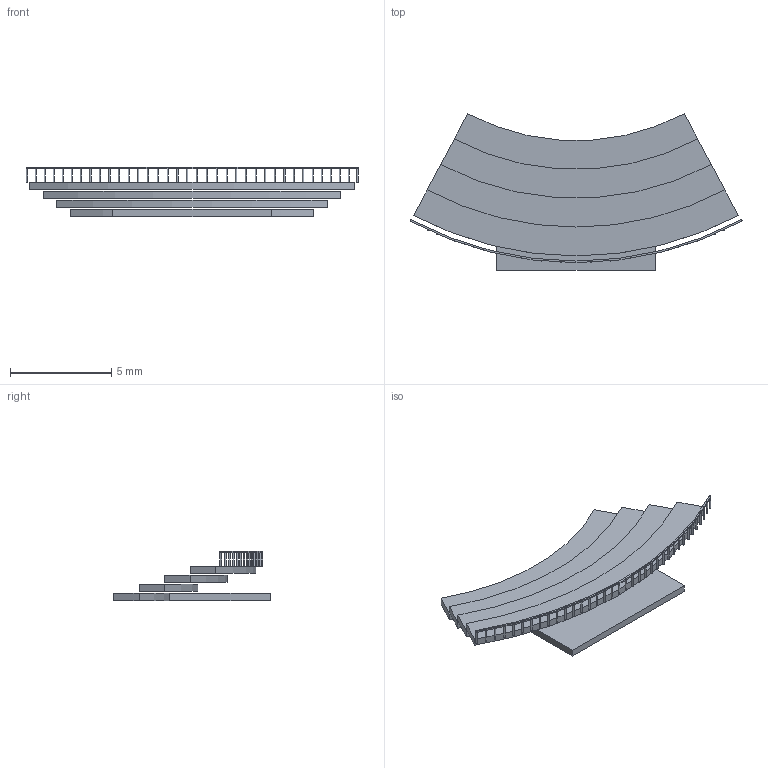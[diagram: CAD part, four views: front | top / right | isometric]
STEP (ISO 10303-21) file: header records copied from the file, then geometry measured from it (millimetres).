
FILE_DESCRIPTION(('ORION SD-AMF-01 Universalnyy amfiteatr «Zelenyy forum» | OOO ORION | zavod-orion.ru | sales@zavod-orion.ru | tel +7 __________'),'2;1');
FILE_NAME('AutoCAD Shape Model','2026-08-08T22:50:52',('Author'),( 'AutoCAD'),'AutoCAD STEP processor 7.9','AutoCAD 7.9' ,'Unknown');
FILE_SCHEMA(('AUTOMOTIVE_DESIGN { 1 0 10303 214 1 1 1 1 }'));
Length unit declared in the file: millimetre
Products named in the file (43): ORION SD-AMF-01 Universalnyy amfiteatr «Zelenyy forum»
Assembly tree (42 placements, depth 2):
  ORION SD-AMF-01 Universalnyy amfiteatr «Zelenyy forum»
    ORION SD-AMF-01 Universalnyy amfiteatr «Zelenyy forum»
    ORION SD-AMF-01 Universalnyy amfiteatr «Zelenyy forum»
    ORION SD-AMF-01 Universalnyy amfiteatr «Zelenyy forum»
    ORION SD-AMF-01 Universalnyy amfiteatr «Zelenyy forum»
    ORION SD-AMF-01 Universalnyy amfiteatr «Zelenyy forum»
    ORION SD-AMF-01 Universalnyy amfiteatr «Zelenyy forum»
    ORION SD-AMF-01 Universalnyy amfiteatr «Zelenyy forum»
    ORION SD-AMF-01 Universalnyy amfiteatr «Zelenyy forum»
    ORION SD-AMF-01 Universalnyy amfiteatr «Zelenyy forum»
    ORION SD-AMF-01 Universalnyy amfiteatr «Zelenyy forum»
    ORION SD-AMF-01 Universalnyy amfiteatr «Zelenyy forum»
    ORION SD-AMF-01 Universalnyy amfiteatr «Zelenyy forum»
    ORION SD-AMF-01 Universalnyy amfiteatr «Zelenyy forum»
    ORION SD-AMF-01 Universalnyy amfiteatr «Zelenyy forum»
    ORION SD-AMF-01 Universalnyy amfiteatr «Zelenyy forum»
    ORION SD-AMF-01 Universalnyy amfiteatr «Zelenyy forum»
    ORION SD-AMF-01 Universalnyy amfiteatr «Zelenyy forum»
    ORION SD-AMF-01 Universalnyy amfiteatr «Zelenyy forum»
    ORION SD-AMF-01 Universalnyy amfiteatr «Zelenyy forum»
    ORION SD-AMF-01 Universalnyy amfiteatr «Zelenyy forum»
    ORION SD-AMF-01 Universalnyy amfiteatr «Zelenyy forum»
    ORION SD-AMF-01 Universalnyy amfiteatr «Zelenyy forum»
    ORION SD-AMF-01 Universalnyy amfiteatr «Zelenyy forum»
    ORION SD-AMF-01 Universalnyy amfiteatr «Zelenyy forum»
    ORION SD-AMF-01 Universalnyy amfiteatr «Zelenyy forum»
    ORION SD-AMF-01 Universalnyy amfiteatr «Zelenyy forum»
    ORION SD-AMF-01 Universalnyy amfiteatr «Zelenyy forum»
    ORION SD-AMF-01 Universalnyy amfiteatr «Zelenyy forum»
    ORION SD-AMF-01 Universalnyy amfiteatr «Zelenyy forum»
    ORION SD-AMF-01 Universalnyy amfiteatr «Zelenyy forum»
    ORION SD-AMF-01 Universalnyy amfiteatr «Zelenyy forum»
    ORION SD-AMF-01 Universalnyy amfiteatr «Zelenyy forum»
    ORION SD-AMF-01 Universalnyy amfiteatr «Zelenyy forum»
    ORION SD-AMF-01 Universalnyy amfiteatr «Zelenyy forum»
    ORION SD-AMF-01 Universalnyy amfiteatr «Zelenyy forum»
    ORION SD-AMF-01 Universalnyy amfiteatr «Zelenyy forum»
    ORION SD-AMF-01 Universalnyy amfiteatr «Zelenyy forum»
    ORION SD-AMF-01 Universalnyy amfiteatr «Zelenyy forum»
    ORION SD-AMF-01 Universalnyy amfiteatr «Zelenyy forum»
    ORION SD-AMF-01 Universalnyy amfiteatr «Zelenyy forum»
    ORION SD-AMF-01 Universalnyy amfiteatr «Zelenyy forum»
    ORION SD-AMF-01 Universalnyy amfiteatr «Zelenyy forum»
Bounding box: 16.39 x 7.74 x 2.42 mm (x, y, z)
Volume: 41.6 mm3; surface area: 300.1 mm2
Topology: 42 solids, 42 shells, 144 faces, 180 edges, 120 vertices
Faces by surface type: plane 98, cylinder 46
Full cylindrical faces by diameter (mm): 0.08 x36
Entity records: 5940 total; most frequent: DIRECTION 1006, CARTESIAN_POINT 847, ORIENTED_EDGE 360, PCURVE 360, DEFINITIONAL_REPRESENTATION 360, LINE 356, VECTOR 356, AXIS2_PLACEMENT_3D 279
